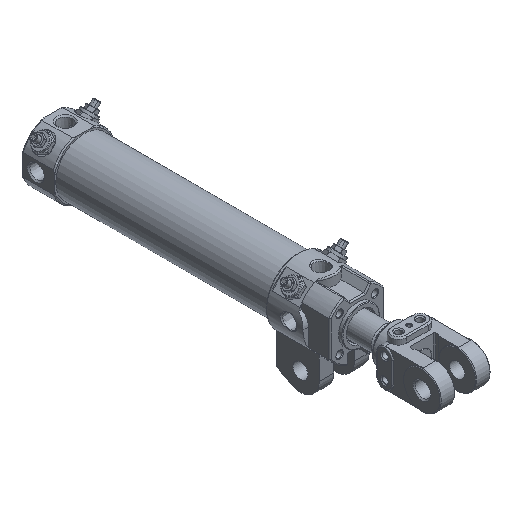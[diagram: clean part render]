
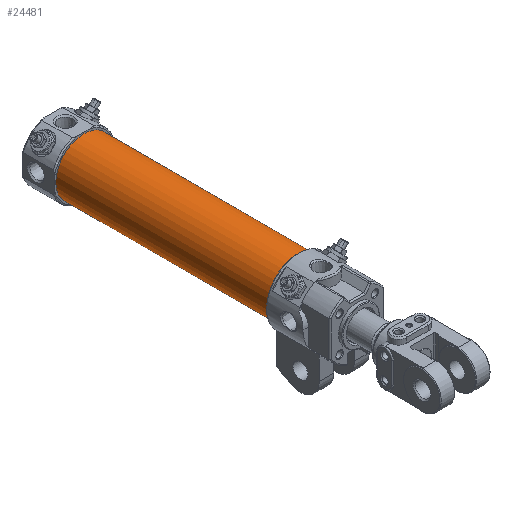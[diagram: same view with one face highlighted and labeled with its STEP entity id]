
A CAD part, isometric view. The second image highlights one B-rep face of the part: STEP entity #24481.
In plain terms, the highlighted cylindrical face has radius 22.5 mm (diameter 45 mm), a full revolution.
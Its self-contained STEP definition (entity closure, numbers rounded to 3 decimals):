
#19160=CARTESIAN_POINT('',(22.5,221.5,0.));
#19161=VERTEX_POINT('',#19160);
#19162=CARTESIAN_POINT('',(0.0,221.5,0.0));
#19163=DIRECTION('',(0.0,-1.0,0.0));
#19164=DIRECTION('',(-1.0,0.0,0.0));
#19165=AXIS2_PLACEMENT_3D('',#19162,#19163,#19164);
#19166=CIRCLE('',#19165,22.5);
#19167=EDGE_CURVE('',#19161,#19161,#19166,.T.);
#24458=CARTESIAN_POINT('',(22.5,50.5,0.));
#24459=VERTEX_POINT('',#24458);
#24460=CARTESIAN_POINT('',(0.0,50.5,0.0));
#24461=DIRECTION('',(0.0,-1.0,0.0));
#24462=DIRECTION('',(-1.0,0.0,0.0));
#24463=AXIS2_PLACEMENT_3D('',#24460,#24461,#24462);
#24464=CIRCLE('',#24463,22.5);
#24465=EDGE_CURVE('',#24459,#24459,#24464,.T.);
#24470=CARTESIAN_POINT('',(0.0,50.5,0.0));
#24471=DIRECTION('',(0.0,1.0,0.0));
#24472=DIRECTION('',(-1.0,0.0,0.0));
#24473=AXIS2_PLACEMENT_3D('',#24470,#24471,#24472);
#24474=CYLINDRICAL_SURFACE('',#24473,22.5);
#24475=ORIENTED_EDGE('',*,*,#19167,.T.);
#24476=EDGE_LOOP('',(#24475));
#24477=FACE_OUTER_BOUND('',#24476,.T.);
#24478=ORIENTED_EDGE('',*,*,#24465,.F.);
#24479=EDGE_LOOP('',(#24478));
#24480=FACE_BOUND('',#24479,.T.);
#24481=ADVANCED_FACE('',(#24477,#24480),#24474,.T.);
